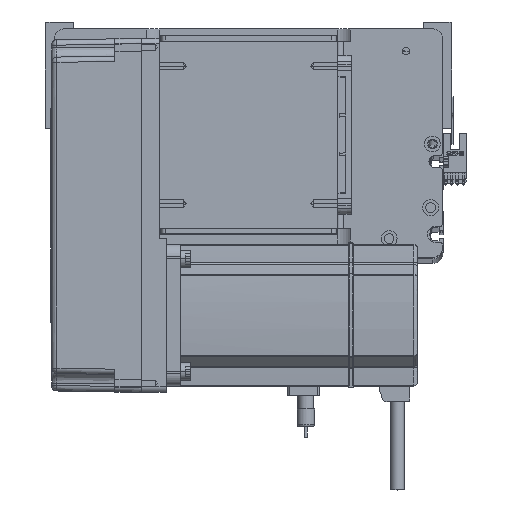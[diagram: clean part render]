
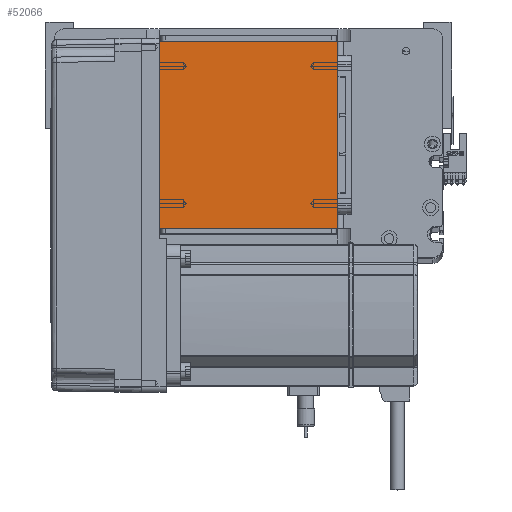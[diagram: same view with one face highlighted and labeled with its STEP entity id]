
A CAD part, top view. The second image highlights one B-rep face of the part: STEP entity #52066.
In plain terms, the highlighted planar face has unit normal (0, 0, 1).
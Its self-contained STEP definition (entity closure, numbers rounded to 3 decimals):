
#2865 = CARTESIAN_POINT ( 'NONE',  ( -50.5, 122., 115. ) ) ;
#8793 = DIRECTION ( 'NONE',  ( -1., 0., 0. ) ) ;
#10296 = DIRECTION ( 'NONE',  ( 1., 0., 0. ) ) ;
#10751 = CARTESIAN_POINT ( 'NONE',  ( 50.5, 122., 115. ) ) ;
#10822 = DIRECTION ( 'NONE',  ( 0., 0., 1. ) ) ;
#14936 = PLANE ( 'NONE',  #49029 ) ;
#15230 = DIRECTION ( 'NONE',  ( 0., 1., 0. ) ) ;
#15536 = CARTESIAN_POINT ( 'NONE',  ( 50.5, 122., 115. ) ) ;
#17611 = CARTESIAN_POINT ( 'NONE',  ( -50.5, 16., 115. ) ) ;
#18179 = VERTEX_POINT ( 'NONE', #19187 ) ;
#19187 = CARTESIAN_POINT ( 'NONE',  ( -50.5, 122., 115. ) ) ;
#19442 = DIRECTION ( 'NONE',  ( 0., -1., 0. ) ) ;
#22358 = EDGE_CURVE ( 'NONE', #43405, #30115, #41694, .T. ) ;
#22871 = FACE_OUTER_BOUND ( 'NONE', #53027, .T. ) ;
#24341 = ORIENTED_EDGE ( 'NONE', *, *, #42119, .T. ) ;
#24670 = VERTEX_POINT ( 'NONE', #17611 ) ;
#25688 = VECTOR ( 'NONE', #38541, 1000. ) ;
#26008 = LINE ( 'NONE', #2865, #33773 ) ;
#28836 = VECTOR ( 'NONE', #8793, 1000. ) ;
#30115 = VERTEX_POINT ( 'NONE', #15536 ) ;
#30583 = CARTESIAN_POINT ( 'NONE',  ( -50.5, 16., 115. ) ) ;
#30619 = EDGE_CURVE ( 'NONE', #18179, #24670, #26008, .T. ) ;
#31421 = CARTESIAN_POINT ( 'NONE',  ( 50.5, 16., 115. ) ) ;
#33278 = CARTESIAN_POINT ( 'NONE',  ( -50.5, 122., 115. ) ) ;
#33773 = VECTOR ( 'NONE', #19442, 1000. ) ;
#35304 = LINE ( 'NONE', #33278, #28836 ) ;
#35875 = ORIENTED_EDGE ( 'NONE', *, *, #36780, .T. ) ;
#36780 = EDGE_CURVE ( 'NONE', #30115, #18179, #35304, .T. ) ;
#38541 = DIRECTION ( 'NONE',  ( 1., 0., 0. ) ) ;
#41694 = LINE ( 'NONE', #10751, #53367 ) ;
#42119 = EDGE_CURVE ( 'NONE', #24670, #43405, #50945, .T. ) ;
#43405 = VERTEX_POINT ( 'NONE', #31421 ) ;
#47221 = ORIENTED_EDGE ( 'NONE', *, *, #22358, .T. ) ;
#47594 = ORIENTED_EDGE ( 'NONE', *, *, #30619, .T. ) ;
#49029 = AXIS2_PLACEMENT_3D ( 'NONE', #51394, #10822, #10296 ) ;
#50945 = LINE ( 'NONE', #30583, #25688 ) ;
#51394 = CARTESIAN_POINT ( 'NONE',  ( 0., 0., 115. ) ) ;
#52066 = ADVANCED_FACE ( 'NONE', ( #22871 ), #14936, .T. ) ;
#53027 = EDGE_LOOP ( 'NONE', ( #47594, #24341, #47221, #35875 ) ) ;
#53367 = VECTOR ( 'NONE', #15230, 1000. ) ;
